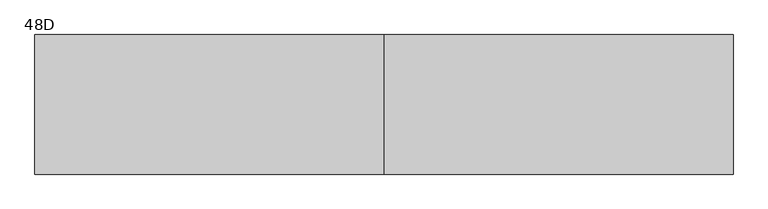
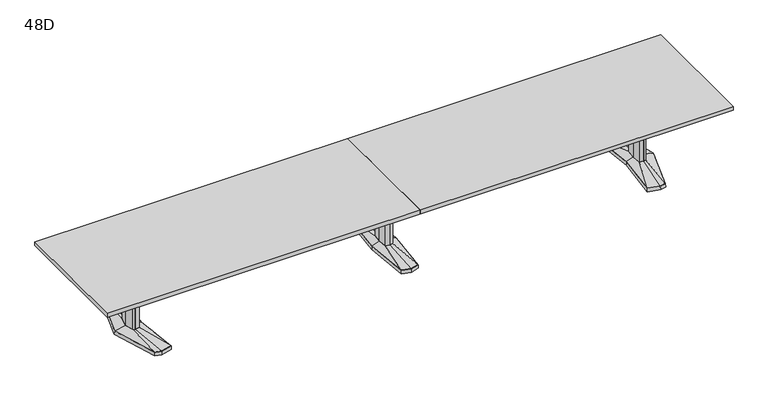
"""IFC4 building model written with IfcOpenShell, lengths in millimetres: furniture geometry, Coalesse_AM_Table_Conference_ETable2_Rectangular_20ft_AluminiumBase : 48D."""

from ifc_helpers import new_model, si_unit, frame, origin, place, context, project, spatial, polyline, outline, extrude, faceted_brep, source, transform, mapped, element, save
from ifc_brep_helpers import plane_surface, spline_surface, advanced_brep


def furniture_48d_4dcca9eb(model_context):
    return source(origin(), model_context, "Body", "SolidModel", [
        faceted_brep([(-81.2333791, -433.8053819, 38.1), (0.0, -455.556576, 38.1), (81.2333791, -433.8053819, 38.1), (119.0564774, 0.0, 38.1), (81.2333791, 433.8053819, 38.1), (0.0, 455.556576, 38.1), (-81.2333791, 433.8053819, 38.1), (-119.0564774, 0.0, 38.1), (-82.7182795, -435.0512063, 3.175), (-120.65, 0.0, 3.175), (-82.7182795, 435.0512063, 3.175), (0.0, 457.2, 3.175), (82.7182795, 435.0512063, 3.175), (120.65, 0.0, 3.175), (82.7182795, -435.0512063, 3.175), (0.0, -457.2, 3.175), (0.0, 429.2617927, 3.175), (-77.9676806, 408.3850278, 3.175), (-74.7019821, 382.9646737, 3.175), (0.0, 402.9670094, 3.175), (74.7019821, 382.9646737, 3.175), (77.9676806, 408.3850278, 3.175), (0.0, -429.2617927, 3.175), (77.9676806, -408.3850278, 3.175), (74.7019821, -382.9646737, 3.175), (0.0, -402.9670094, 3.175), (-74.7019821, -382.9646737, 3.175), (-77.9676806, -408.3850278, 3.175), (-71.8574262, 114.6326257, 3.175), (-82.5426076, 0.0, 3.175), (-71.8574262, -114.6326257, 3.175), (0.0, -133.8761372, 3.175), (71.8574262, -114.6326257, 3.175), (82.5426076, 0.0, 3.175), (71.8574262, 114.6326257, 3.175), (0.0, 133.8761372, 3.175), (0.0, 429.2617927, 0.0), (77.9676806, 408.3850278, 0.0), (74.7019821, 382.9646737, 0.0), (0.0, 402.9670094, 0.0), (-74.7019821, 382.9646737, 0.0), (-77.9676806, 408.3850278, 0.0), (0.0, -429.2617927, 0.0), (-77.9676806, -408.3850278, 0.0), (-74.7019821, -382.9646737, 0.0), (0.0, -402.9670094, 0.0), (74.7019821, -382.9646737, 0.0), (77.9676806, -408.3850278, 0.0), (-71.8574262, 114.6326257, 0.0), (0.0, 133.8761372, 0.0), (71.8574262, 114.6326257, 0.0), (82.5426076, 0.0, 0.0), (71.8574262, -114.6326257, 0.0), (0.0, -133.8761372, 0.0), (-71.8574262, -114.6326257, 0.0), (-82.5426076, 0.0, 0.0)], [[[0, 1, 2, 3, 4, 5, 6, 7]], [[8, 9, 10, 11, 12, 13, 14, 15], [16, 17, 18, 19, 20, 21], [22, 23, 24, 25, 26, 27], [28, 29, 30, 31, 32, 33, 34, 35]], [[1, 0, 8, 15]], [[2, 1, 15, 14]], [[3, 2, 14, 13]], [[4, 3, 13, 12]], [[5, 4, 12, 11]], [[6, 5, 11, 10]], [[7, 6, 10, 9]], [[0, 7, 9, 8]], [[36, 37, 38, 39, 40, 41]], [[42, 43, 44, 45, 46, 47]], [[48, 49, 50, 51, 52, 53, 54, 55]], [[36, 41, 17, 16]], [[41, 40, 18, 17]], [[40, 39, 19, 18]], [[39, 38, 20, 19]], [[38, 37, 21, 20]], [[37, 36, 16, 21]], [[42, 47, 23, 22]], [[47, 46, 24, 23]], [[46, 45, 25, 24]], [[45, 44, 26, 25]], [[44, 43, 27, 26]], [[43, 42, 22, 27]], [[48, 55, 29, 28]], [[55, 54, 30, 29]], [[54, 53, 31, 30]], [[53, 52, 32, 31]], [[52, 51, 33, 32]], [[51, 50, 34, 33]], [[50, 49, 35, 34]], [[49, 48, 28, 35]]]),
        faceted_brep([(-36.3832834, 84.6900825, 698.5), (-44.2774487, 0.0, 698.5), (-36.3832834, -84.6900825, 698.5), (0.0, -94.4335728, 698.5), (36.3832834, -84.6900825, 698.5), (44.2774487, 0.0, 698.5), (36.3832834, 84.6900825, 698.5), (0.0, 94.4335728, 698.5), (-36.3832834, 84.6900825, 63.5), (0.0, 94.4335728, 63.5), (36.3832834, 84.6900825, 63.5), (44.2774487, 0.0, 63.5), (36.3832834, -84.6900825, 63.5), (0.0, -94.4335728, 63.5), (-36.3832834, -84.6900825, 63.5), (-44.2774487, 0.0, 63.5)], [[[0, 1, 2, 3, 4, 5, 6, 7]], [[8, 9, 10, 11, 12, 13, 14, 15]], [[1, 0, 8, 15]], [[2, 1, 15, 14]], [[3, 2, 14, 13]], [[4, 3, 13, 12]], [[5, 4, 12, 11]], [[6, 5, 11, 10]], [[7, 6, 10, 9]], [[0, 7, 9, 8]]]),
        advanced_brep(
        [(-36.3832834, 84.6900825, 63.5), (-44.2774487, 0.0, 63.5), (-36.3832834, -84.6900825, 63.5), (0.0, -94.4335728, 63.5), (36.3832834, -84.6900825, 63.5), (44.2774487, 0.0, 63.5), (36.3832834, 84.6900825, 63.5), (0.0, 94.4335728, 63.5), (-81.2333791, 433.8053819, 38.1), (0.0, 455.556576, 38.1), (81.2333791, 433.8053819, 38.1), (119.0564774, 0.0, 38.1), (81.2333791, -433.8053819, 38.1), (0.0, -455.556576, 38.1), (-81.2333791, -433.8053819, 38.1), (-119.0564774, 0.0, 38.1)],
        [
            (0, 1),
            (1, 2),
            (2, 3),
            (3, 4),
            (4, 5),
            (5, 6),
            (6, 7),
            (7, 0),
            (8, 9),
            (9, 10),
            (10, 11),
            (11, 12),
            (12, 13),
            (13, 14),
            (14, 15),
            (15, 8),
            (15, 1),
            (0, 8),
            (14, 2),
            (13, 3),
            (12, 4),
            (11, 5),
            (10, 6),
            (9, 7),
        ],
        [
            plane_surface(frame((0.0, 0.0, 63.5), z_axis=(0.0, 0.0, 1.0000000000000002), x_axis=(-0.9659615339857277, -0.25868574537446, 0.0))),
            plane_surface(frame((0.0, 0.0, 38.1), z_axis=(0.0, 0.0, -1.0000000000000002), x_axis=(-0.9659615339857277, -0.25868574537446, 0.0))),
            spline_surface(1, 1, [[(-81.2333791, 433.8053819, 38.1), (-36.3832834, 84.6900825, 63.5)], [(-119.0564774, 0.0, 38.1), (-44.2774487, 0.0, 63.5)]], [2, 2], [2, 2], [0.0, 1.0], [0.0, 1.0]),
            spline_surface(1, 1, [[(-119.0564774, 0.0, 38.1), (-44.2774487, 0.0, 63.5)], [(-81.2333791, -433.8053819, 38.1), (-36.3832834, -84.6900825, 63.5)]], [2, 2], [2, 2], [0.0, 1.0], [0.0, 1.0]),
            spline_surface(1, 1, [[(-81.2333791, -433.8053819, 38.1), (-36.3832834, -84.6900825, 63.5)], [(0.0, -455.556576, 38.1), (0.0, -94.4335728, 63.5)]], [2, 2], [2, 2], [0.0, 1.0], [0.0, 1.0]),
            spline_surface(1, 1, [[(0.0, -455.556576, 38.1), (0.0, -94.4335728, 63.5)], [(81.2333791, -433.8053819, 38.1), (36.3832834, -84.6900825, 63.5)]], [2, 2], [2, 2], [0.0, 1.0], [0.0, 1.0]),
            spline_surface(1, 1, [[(81.2333791, -433.8053819, 38.1), (36.3832834, -84.6900825, 63.5)], [(119.0564774, 0.0, 38.1), (44.2774487, 0.0, 63.5)]], [2, 2], [2, 2], [0.0, 1.0], [0.0, 1.0]),
            spline_surface(1, 1, [[(119.0564774, 0.0, 38.1), (44.2774487, 0.0, 63.5)], [(81.2333791, 433.8053819, 38.1), (36.3832834, 84.6900825, 63.5)]], [2, 2], [2, 2], [0.0, 1.0], [0.0, 1.0]),
            spline_surface(1, 1, [[(81.2333791, 433.8053819, 38.1), (36.3832834, 84.6900825, 63.5)], [(0.0, 455.556576, 38.1), (0.0, 94.4335728, 63.5)]], [2, 2], [2, 2], [0.0, 1.0], [0.0, 1.0]),
            spline_surface(1, 1, [[(0.0, 455.556576, 38.1), (0.0, 94.4335728, 63.5)], [(-81.2333791, 433.8053819, 38.1), (-36.3832834, 84.6900825, 63.5)]], [2, 2], [2, 2], [0.0, 1.0], [0.0, 1.0]),
        ],
        [
            (0, [[1, 2, 3, 4, 5, 6, 7, 8]]),
            (1, [[9, 10, 11, 12, 13, 14, 15, 16]]),
            (2, [[-16, 17, -1, 18]]),
            (3, [[-15, 19, -2, -17]]),
            (4, [[-14, 20, -3, -19]]),
            (5, [[-13, 21, -4, -20]]),
            (6, [[-12, 22, -5, -21]]),
            (7, [[-11, 23, -6, -22]]),
            (8, [[-10, 24, -7, -23]]),
            (9, [[-9, -18, -8, -24]]),
        ],
    ),
        faceted_brep([(2429.8306835, 455.5848221, 38.1), (2320.2531277, 426.2263816, 38.1), (2361.4163717, 0.0, 38.1), (2320.2531277, -426.2263816, 38.1), (2429.8306835, -455.5848221, 38.1), (2485.9570396, -440.5478297, 38.1), (2623.2684269, 0.0, 38.1), (2485.9570396, 440.5478297, 38.1), (2429.8306754, 457.2283104, 3.175), (2487.2124472, 441.8549756, 3.175), (2624.93125, 0.0, 3.175), (2487.2124472, -441.8549756, 3.175), (2429.8306754, -457.2283104, 3.175), (2318.54375, -427.4118891, 3.175), (2359.8214856, 0.0, 3.175), (2318.54375, 427.4118891, 3.175), (2433.420115, 428.3273875, 3.175), (2328.3718228, 402.1057253, 3.175), (2336.490518, 377.985069, 3.175), (2437.0095466, 401.0699529, 3.175), (2487.5691725, 387.524361, 3.175), (2486.7631061, 414.0360954, 3.175), (2433.420115, -428.3273875, 3.175), (2486.7631061, -414.0360954, 3.175), (2487.5691725, -387.524361, 3.175), (2437.0095466, -401.0699529, 3.175), (2336.490518, -377.985069, 3.175), (2328.3718228, -402.1057253, 3.175), (2560.0153621, 0.0, 3.175), (2527.7459611, 120.4193755, 3.175), (2479.0987222, 133.471665, 3.175), (2399.2180526, 119.4176561, 3.175), (2388.0868466, 0.0, 3.175), (2399.2180526, -119.4176561, 3.175), (2479.0987222, -133.471665, 3.175), (2527.7459611, -120.4193755, 3.175), (2433.420115, 428.3273875, 0.0), (2486.7631061, 414.0360954, 0.0), (2487.5691725, 387.524361, 0.0), (2437.0095466, 401.0699529, 0.0), (2336.490518, 377.985069, 0.0), (2328.3718228, 402.1057253, 0.0), (2433.420115, -428.3273875, 0.0), (2328.3718228, -402.1057253, 0.0), (2336.490518, -377.985069, 0.0), (2437.0095466, -401.0699529, 0.0), (2487.5691725, -387.524361, 0.0), (2486.7631061, -414.0360954, 0.0), (2560.0153621, 0.0, 0.0), (2527.7459611, -120.4193755, 0.0), (2479.0987222, -133.471665, 0.0), (2399.2180526, -119.4176561, 0.0), (2388.0868466, 0.0, 0.0), (2399.2180526, 119.4176561, 0.0), (2479.0987222, 133.471665, 0.0), (2527.7459611, 120.4193755, 0.0)], [[[0, 1, 2, 3, 4, 5, 6, 7]], [[8, 9, 10, 11, 12, 13, 14, 15], [16, 17, 18, 19, 20, 21], [22, 23, 24, 25, 26, 27], [28, 29, 30, 31, 32, 33, 34, 35]], [[7, 9, 8, 0]], [[6, 10, 9, 7]], [[5, 11, 10, 6]], [[4, 12, 11, 5]], [[3, 13, 12, 4]], [[2, 14, 13, 3]], [[1, 15, 14, 2]], [[0, 8, 15, 1]], [[36, 37, 38, 39, 40, 41]], [[42, 43, 44, 45, 46, 47]], [[48, 49, 50, 51, 52, 53, 54, 55]], [[36, 16, 21, 37]], [[37, 21, 20, 38]], [[38, 20, 19, 39]], [[39, 19, 18, 40]], [[40, 18, 17, 41]], [[41, 17, 16, 36]], [[42, 22, 27, 43]], [[43, 27, 26, 44]], [[44, 26, 25, 45]], [[45, 25, 24, 46]], [[46, 24, 23, 47]], [[47, 23, 22, 42]], [[48, 28, 35, 49]], [[49, 35, 34, 50]], [[50, 34, 33, 51]], [[51, 33, 32, 52]], [[52, 32, 31, 53]], [[53, 31, 30, 54]], [[54, 30, 29, 55]], [[55, 29, 28, 48]]]),
        faceted_brep([(2520.5710836, 0.0, 698.5), (2496.6358546, 89.3188359, 698.5), (2479.7824984, 93.8406728, 698.5), (2477.3826511, 94.4845635, 698.5), (2434.455146, 86.9320037, 698.5), (2426.3520056, 0.0, 698.5), (2434.455146, -86.9320037, 698.5), (2477.3826511, -94.4845635, 698.5), (2479.7824984, -93.8406728, 698.5), (2496.6358546, -89.3188359, 698.5), (2520.5710836, 0.0, 63.5), (2496.6358546, -89.3188359, 63.5), (2479.7824984, -93.8406728, 63.5), (2477.3826511, -94.4845635, 63.5), (2434.455146, -86.9320037, 63.5), (2426.3520056, 0.0, 63.5), (2434.455146, 86.9320037, 63.5), (2477.3826511, 94.4845635, 63.5), (2479.7824984, 93.8406728, 63.5), (2496.6358546, 89.3188359, 63.5)], [[[0, 1, 2, 3, 4, 5, 6, 7, 8, 9]], [[10, 11, 12, 13, 14, 15, 16, 17, 18, 19]], [[9, 11, 10, 0]], [[8, 12, 11, 9]], [[7, 13, 12, 8]], [[6, 14, 13, 7]], [[5, 15, 14, 6]], [[4, 16, 15, 5]], [[3, 17, 16, 4]], [[2, 18, 17, 3]], [[1, 19, 18, 2]], [[0, 10, 19, 1]]]),
        advanced_brep(
        [(2477.3826511, 94.4845635, 63.5), (2434.455146, 86.9320037, 63.5), (2426.3520056, 0.0, 63.5), (2434.455146, -86.9320037, 63.5), (2477.3826511, -94.4845635, 63.5), (2496.6358546, -89.3188359, 63.5), (2520.5710836, 0.0, 63.5), (2496.6358546, 89.3188359, 63.5), (2429.8306835, 455.5848221, 38.1), (2485.9570396, 440.5478297, 38.1), (2623.2684269, 0.0, 38.1), (2485.9570396, -440.5478297, 38.1), (2429.8306835, -455.5848221, 38.1), (2320.2531277, -426.2263816, 38.1), (2361.4163717, 0.0, 38.1), (2320.2531277, 426.2263816, 38.1)],
        [
            (0, 1),
            (1, 2),
            (2, 3),
            (3, 4),
            (4, 5),
            (5, 6),
            (6, 7),
            (7, 0),
            (8, 9),
            (9, 10),
            (10, 11),
            (11, 12),
            (12, 13),
            (13, 14),
            (14, 15),
            (15, 8),
            (8, 0),
            (7, 9),
            (6, 10),
            (5, 11),
            (4, 12),
            (3, 13),
            (2, 14),
            (1, 15),
        ],
        [
            plane_surface(frame((2470.4837991, 0.0, 63.5), z_axis=(0.0, 0.0, 1.0), x_axis=(-0.25884244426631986, -0.9659195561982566, 0.0))),
            plane_surface(frame((2432.0958125, 0.0, 38.1), z_axis=(0.0, 0.0, -1.0), x_axis=(-0.25884244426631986, -0.9659195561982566, 0.0))),
            spline_surface(1, 1, [[(2429.8306835, 455.5848221, 38.1), (2485.9570396, 440.5478297, 38.1)], [(2477.3826511, 94.4845635, 63.5), (2496.6358546, 89.3188359, 63.5)]], [2, 2], [2, 2], [0.0, 1.0], [0.0, 1.0]),
            spline_surface(1, 1, [[(2485.9570396, 440.5478297, 38.1), (2623.2684269, 0.0, 38.1)], [(2496.6358546, 89.3188359, 63.5), (2520.5710836, 0.0, 63.5)]], [2, 2], [2, 2], [0.0, 1.0], [0.0, 1.0]),
            spline_surface(1, 1, [[(2623.2684269, 0.0, 38.1), (2485.9570396, -440.5478297, 38.1)], [(2520.5710836, 0.0, 63.5), (2496.6358546, -89.3188359, 63.5)]], [2, 2], [2, 2], [0.0, 1.0], [0.0, 1.0]),
            spline_surface(1, 1, [[(2485.9570396, -440.5478297, 38.1), (2429.8306835, -455.5848221, 38.1)], [(2496.6358546, -89.3188359, 63.5), (2477.3826511, -94.4845635, 63.5)]], [2, 2], [2, 2], [0.0, 1.0], [0.0, 1.0]),
            spline_surface(1, 1, [[(2429.8306835, -455.5848221, 38.1), (2320.2531277, -426.2263816, 38.1)], [(2477.3826511, -94.4845635, 63.5), (2434.455146, -86.9320037, 63.5)]], [2, 2], [2, 2], [0.0, 1.0], [0.0, 1.0]),
            spline_surface(1, 1, [[(2320.2531277, -426.2263816, 38.1), (2361.4163717, 0.0, 38.1)], [(2434.455146, -86.9320037, 63.5), (2426.3520056, 0.0, 63.5)]], [2, 2], [2, 2], [0.0, 1.0], [0.0, 1.0]),
            spline_surface(1, 1, [[(2361.4163717, 0.0, 38.1), (2320.2531277, 426.2263816, 38.1)], [(2426.3520056, 0.0, 63.5), (2434.455146, 86.9320037, 63.5)]], [2, 2], [2, 2], [0.0, 1.0], [0.0, 1.0]),
            spline_surface(1, 1, [[(2320.2531277, 426.2263816, 38.1), (2429.8306835, 455.5848221, 38.1)], [(2434.455146, 86.9320037, 63.5), (2477.3826511, 94.4845635, 63.5)]], [2, 2], [2, 2], [0.0, 1.0], [0.0, 1.0]),
        ],
        [
            (0, [[1, 2, 3, 4, 5, 6, 7, 8]]),
            (1, [[9, 10, 11, 12, 13, 14, 15, 16]]),
            (2, [[17, -8, 18, -9]]),
            (3, [[-18, -7, 19, -10]]),
            (4, [[-19, -6, 20, -11]]),
            (5, [[-20, -5, 21, -12]]),
            (6, [[-21, -4, 22, -13]]),
            (7, [[-22, -3, 23, -14]]),
            (8, [[-23, -2, 24, -15]]),
            (9, [[-24, -1, -17, -16]]),
        ],
    ),
        faceted_brep([(-2429.8306835, 455.5848221, 38.1), (-2485.9570396, 440.5478297, 38.1), (-2623.2684269, 0.0, 38.1), (-2485.9570396, -440.5478297, 38.1), (-2429.8306835, -455.5848221, 38.1), (-2320.2531277, -426.2263816, 38.1), (-2361.4163717, 0.0, 38.1), (-2320.2531277, 426.2263816, 38.1), (-2429.8306754, 457.2283104, 3.175), (-2318.54375, 427.4118891, 3.175), (-2359.8214856, 0.0, 3.175), (-2318.54375, -427.4118891, 3.175), (-2429.8306754, -457.2283104, 3.175), (-2487.2124472, -441.8549756, 3.175), (-2624.93125, 0.0, 3.175), (-2487.2124472, 441.8549756, 3.175), (-2433.420115, 428.3273875, 3.175), (-2486.7631061, 414.0360954, 3.175), (-2487.5691725, 387.524361, 3.175), (-2437.0095466, 401.0699529, 3.175), (-2336.490518, 377.985069, 3.175), (-2328.3718228, 402.1057253, 3.175), (-2433.420115, -428.3273875, 3.175), (-2328.3718228, -402.1057253, 3.175), (-2336.490518, -377.985069, 3.175), (-2437.0095466, -401.0699529, 3.175), (-2487.5691725, -387.524361, 3.175), (-2486.7631061, -414.0360954, 3.175), (-2560.0153621, 0.0, 3.175), (-2527.7459611, -120.4193755, 3.175), (-2479.0987222, -133.471665, 3.175), (-2399.2180526, -119.4176561, 3.175), (-2388.0868466, 0.0, 3.175), (-2399.2180526, 119.4176561, 3.175), (-2479.0987222, 133.471665, 3.175), (-2527.7459611, 120.4193755, 3.175), (-2433.420115, 428.3273875, 0.0), (-2328.3718228, 402.1057253, 0.0), (-2336.490518, 377.985069, 0.0), (-2437.0095466, 401.0699529, 0.0), (-2487.5691725, 387.524361, 0.0), (-2486.7631061, 414.0360954, 0.0), (-2433.420115, -428.3273875, 0.0), (-2486.7631061, -414.0360954, 0.0), (-2487.5691725, -387.524361, 0.0), (-2437.0095466, -401.0699529, 0.0), (-2336.490518, -377.985069, 0.0), (-2328.3718228, -402.1057253, 0.0), (-2560.0153621, 0.0, 0.0), (-2527.7459611, 120.4193755, 0.0), (-2479.0987222, 133.471665, 0.0), (-2399.2180526, 119.4176561, 0.0), (-2388.0868466, 0.0, 0.0), (-2399.2180526, -119.4176561, 0.0), (-2479.0987222, -133.471665, 0.0), (-2527.7459611, -120.4193755, 0.0)], [[[0, 1, 2, 3, 4, 5, 6, 7]], [[8, 9, 10, 11, 12, 13, 14, 15], [16, 17, 18, 19, 20, 21], [22, 23, 24, 25, 26, 27], [28, 29, 30, 31, 32, 33, 34, 35]], [[1, 0, 8, 15]], [[2, 1, 15, 14]], [[3, 2, 14, 13]], [[4, 3, 13, 12]], [[5, 4, 12, 11]], [[6, 5, 11, 10]], [[7, 6, 10, 9]], [[0, 7, 9, 8]], [[36, 37, 38, 39, 40, 41]], [[42, 43, 44, 45, 46, 47]], [[48, 49, 50, 51, 52, 53, 54, 55]], [[36, 41, 17, 16]], [[41, 40, 18, 17]], [[40, 39, 19, 18]], [[39, 38, 20, 19]], [[38, 37, 21, 20]], [[37, 36, 16, 21]], [[42, 47, 23, 22]], [[47, 46, 24, 23]], [[46, 45, 25, 24]], [[45, 44, 26, 25]], [[44, 43, 27, 26]], [[43, 42, 22, 27]], [[48, 55, 29, 28]], [[55, 54, 30, 29]], [[54, 53, 31, 30]], [[53, 52, 32, 31]], [[52, 51, 33, 32]], [[51, 50, 34, 33]], [[50, 49, 35, 34]], [[49, 48, 28, 35]]]),
        faceted_brep([(-2520.5710836, 0.0, 698.5), (-2496.6358546, -89.3188359, 698.5), (-2479.7824984, -93.8406728, 698.5), (-2477.3826511, -94.4845635, 698.5), (-2434.455146, -86.9320037, 698.5), (-2426.3520056, 0.0, 698.5), (-2434.455146, 86.9320037, 698.5), (-2477.3826511, 94.4845635, 698.5), (-2479.7824984, 93.8406728, 698.5), (-2496.6358546, 89.3188359, 698.5), (-2520.5710836, 0.0, 63.5), (-2496.6358546, 89.3188359, 63.5), (-2479.7824984, 93.8406728, 63.5), (-2477.3826511, 94.4845635, 63.5), (-2434.455146, 86.9320037, 63.5), (-2426.3520056, 0.0, 63.5), (-2434.455146, -86.9320037, 63.5), (-2477.3826511, -94.4845635, 63.5), (-2479.7824984, -93.8406728, 63.5), (-2496.6358546, -89.3188359, 63.5)], [[[0, 1, 2, 3, 4, 5, 6, 7, 8, 9]], [[10, 11, 12, 13, 14, 15, 16, 17, 18, 19]], [[1, 0, 10, 19]], [[2, 1, 19, 18]], [[3, 2, 18, 17]], [[4, 3, 17, 16]], [[5, 4, 16, 15]], [[6, 5, 15, 14]], [[7, 6, 14, 13]], [[8, 7, 13, 12]], [[9, 8, 12, 11]], [[0, 9, 11, 10]]]),
        advanced_brep(
        [(-2477.3826511, 94.4845635, 63.5), (-2496.6358546, 89.3188359, 63.5), (-2520.5710836, 0.0, 63.5), (-2496.6358546, -89.3188359, 63.5), (-2477.3826511, -94.4845635, 63.5), (-2434.455146, -86.9320037, 63.5), (-2426.3520056, 0.0, 63.5), (-2434.455146, 86.9320037, 63.5), (-2429.8306835, 455.5848221, 38.1), (-2320.2531277, 426.2263816, 38.1), (-2361.4163717, 0.0, 38.1), (-2320.2531277, -426.2263816, 38.1), (-2429.8306835, -455.5848221, 38.1), (-2485.9570396, -440.5478297, 38.1), (-2623.2684269, 0.0, 38.1), (-2485.9570396, 440.5478297, 38.1)],
        [
            (0, 1),
            (1, 2),
            (2, 3),
            (3, 4),
            (4, 5),
            (5, 6),
            (6, 7),
            (7, 0),
            (8, 9),
            (9, 10),
            (10, 11),
            (11, 12),
            (12, 13),
            (13, 14),
            (14, 15),
            (15, 8),
            (15, 1),
            (0, 8),
            (14, 2),
            (13, 3),
            (12, 4),
            (11, 5),
            (10, 6),
            (9, 7),
        ],
        [
            plane_surface(frame((-2470.4837991, 0.0, 63.5), z_axis=(0.0, 0.0, 1.0), x_axis=(0.25884244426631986, -0.9659195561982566, 0.0))),
            plane_surface(frame((-2432.0958125, 0.0, 38.1), z_axis=(0.0, 0.0, -1.0), x_axis=(0.25884244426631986, -0.9659195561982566, 0.0))),
            spline_surface(1, 1, [[(-2429.8306835, 455.5848221, 38.1), (-2477.3826511, 94.4845635, 63.5)], [(-2485.9570396, 440.5478297, 38.1), (-2496.6358546, 89.3188359, 63.5)]], [2, 2], [2, 2], [0.0, 1.0], [0.0, 1.0]),
            spline_surface(1, 1, [[(-2485.9570396, 440.5478297, 38.1), (-2496.6358546, 89.3188359, 63.5)], [(-2623.2684269, 0.0, 38.1), (-2520.5710836, 0.0, 63.5)]], [2, 2], [2, 2], [0.0, 1.0], [0.0, 1.0]),
            spline_surface(1, 1, [[(-2623.2684269, 0.0, 38.1), (-2520.5710836, 0.0, 63.5)], [(-2485.9570396, -440.5478297, 38.1), (-2496.6358546, -89.3188359, 63.5)]], [2, 2], [2, 2], [0.0, 1.0], [0.0, 1.0]),
            spline_surface(1, 1, [[(-2485.9570396, -440.5478297, 38.1), (-2496.6358546, -89.3188359, 63.5)], [(-2429.8306835, -455.5848221, 38.1), (-2477.3826511, -94.4845635, 63.5)]], [2, 2], [2, 2], [0.0, 1.0], [0.0, 1.0]),
            spline_surface(1, 1, [[(-2429.8306835, -455.5848221, 38.1), (-2477.3826511, -94.4845635, 63.5)], [(-2320.2531277, -426.2263816, 38.1), (-2434.455146, -86.9320037, 63.5)]], [2, 2], [2, 2], [0.0, 1.0], [0.0, 1.0]),
            spline_surface(1, 1, [[(-2320.2531277, -426.2263816, 38.1), (-2434.455146, -86.9320037, 63.5)], [(-2361.4163717, 0.0, 38.1), (-2426.3520056, 0.0, 63.5)]], [2, 2], [2, 2], [0.0, 1.0], [0.0, 1.0]),
            spline_surface(1, 1, [[(-2361.4163717, 0.0, 38.1), (-2426.3520056, 0.0, 63.5)], [(-2320.2531277, 426.2263816, 38.1), (-2434.455146, 86.9320037, 63.5)]], [2, 2], [2, 2], [0.0, 1.0], [0.0, 1.0]),
            spline_surface(1, 1, [[(-2320.2531277, 426.2263816, 38.1), (-2434.455146, 86.9320037, 63.5)], [(-2429.8306835, 455.5848221, 38.1), (-2477.3826511, 94.4845635, 63.5)]], [2, 2], [2, 2], [0.0, 1.0], [0.0, 1.0]),
        ],
        [
            (0, [[1, 2, 3, 4, 5, 6, 7, 8]]),
            (1, [[9, 10, 11, 12, 13, 14, 15, 16]]),
            (2, [[-16, 17, -1, 18]]),
            (3, [[-15, 19, -2, -17]]),
            (4, [[-14, 20, -3, -19]]),
            (5, [[-13, 21, -4, -20]]),
            (6, [[-12, 22, -5, -21]]),
            (7, [[-11, 23, -6, -22]]),
            (8, [[-10, 24, -7, -23]]),
            (9, [[-9, -18, -8, -24]]),
        ],
    ),
        extrude(outline(polyline([(96.8375, 698.5), (103.1875, 698.5), (103.1875, 476.25), (-103.1875, 476.25), (-103.1875, 698.5), (-96.8375, 698.5), (-96.8375, 482.6), (96.8375, 482.6), (96.8375, 698.5)])), frame((44.2774487, 0.0, 0.0), z_axis=(1.0, 0.0, 0.0), x_axis=(0.0, 1.0, 0.0)), (0.0, 0.0, 1.0), 2382.2163013),
        extrude(outline(polyline([(3048.0, 609.6), (3048.0, -609.6), (0.0, -609.6), (0.0, 609.6), (3048.0, 609.6)])), frame((0.0, 0.0, 698.5), z_axis=(0.0, 0.0, 1.0), x_axis=(1.0, 0.0, 0.0)), (0.0, 0.0, 1.0), 38.1),
        extrude(outline(polyline([(0.0, 609.6), (0.0, -609.6), (-3048.0, -609.6), (-3048.0, 609.6), (0.0, 609.6)])), frame((0.0, 0.0, 698.5), z_axis=(0.0, 0.0, 1.0), x_axis=(1.0, 0.0, 0.0)), (0.0, 0.0, 1.0), 38.1),
        extrude(outline(polyline([(96.8375, 698.5), (103.1875, 698.5), (103.1875, 476.25), (-103.1875, 476.25), (-103.1875, 698.5), (-96.8375, 698.5), (-96.8375, 482.6), (96.8375, 482.6), (96.8375, 698.5)])), frame((-2426.49375, 0.0, 0.0), z_axis=(1.0, 0.0, 0.0), x_axis=(0.0, 1.0, 0.0)), (0.0, 0.0, 1.0), 2382.2163013),
    ])


if __name__ == "__main__":
    model = new_model("IFC4")
    model_context = context("Model", 3, world=origin())
    ifc_project = project(units=[si_unit("LENGTHUNIT", "METRE", prefix="MILLI")], contexts=[model_context])
    site = spatial("IfcSite", under=ifc_project)
    building = spatial("IfcBuilding", under=site)
    placement = place(None, origin())
    furniture_48d_shape = furniture_48d_4dcca9eb(model_context)
    element("IfcFurniture", 1, ObjectType="Coalesse_AM_Table_Conference_ETable2_Rectangular_20ft_AluminiumBase : 48D", at=placement, inside=building, context=model_context, shape_type="MappedRepresentation", body=[
        mapped(furniture_48d_shape, transform((0.0, 0.0, 0.0), x_axis=(1.0, 0.0, 0.0), y_axis=(0.0, 1.0, 0.0), z_axis=(0.0, 0.0, 1.0))),
    ])
    save(model, "model.ifc")
